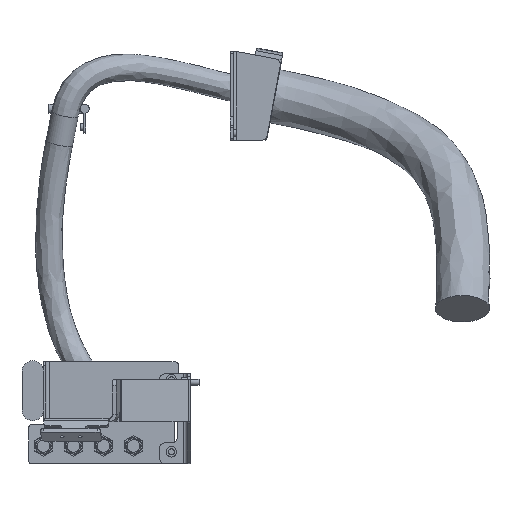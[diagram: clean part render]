
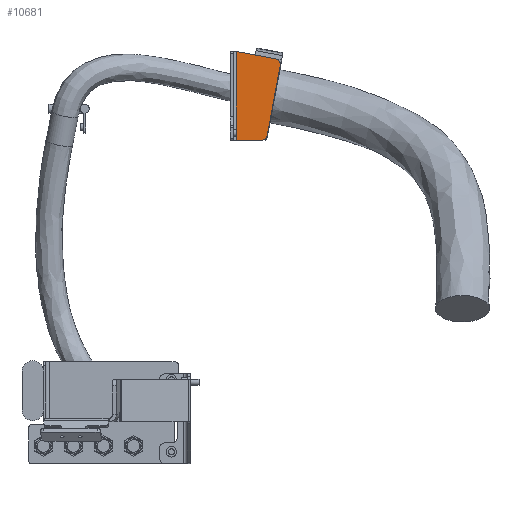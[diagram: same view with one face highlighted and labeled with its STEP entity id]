
A CAD part, left-side view. The second image highlights one B-rep face of the part: STEP entity #10681.
In plain terms, the highlighted planar face has unit normal (-1, 0, 0).
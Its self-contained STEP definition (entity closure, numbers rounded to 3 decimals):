
#34 = EDGE_CURVE ( 'NONE', #9895, #4397, #2104, .T. ) ;
#1404 = DIRECTION ( 'NONE',  ( 0., 1., 0. ) ) ;
#1415 = CIRCLE ( 'NONE', #10564, 10. ) ;
#1929 = CARTESIAN_POINT ( 'NONE',  ( 949., -140., 2206. ) ) ;
#2104 = LINE ( 'NONE', #8624, #19910 ) ;
#2502 = ORIENTED_EDGE ( 'NONE', *, *, #17808, .T. ) ;
#3466 = EDGE_CURVE ( 'NONE', #10762, #18003, #18106, .T. ) ;
#4397 = VERTEX_POINT ( 'NONE', #21269 ) ;
#4862 = DIRECTION ( 'NONE',  ( -1., 0., 0. ) ) ;
#6401 = CARTESIAN_POINT ( 'NONE',  ( 949., -203.54, 2183.978 ) ) ;
#6878 = VERTEX_POINT ( 'NONE', #11277 ) ;
#6968 = ORIENTED_EDGE ( 'NONE', *, *, #34, .F. ) ;
#7931 = VECTOR ( 'NONE', #19863, 1000. ) ;
#8090 = VECTOR ( 'NONE', #19677, 1000. ) ;
#8272 = DIRECTION ( 'NONE',  ( -1., 0., 0. ) ) ;
#8476 = CIRCLE ( 'NONE', #13069, 10. ) ;
#8624 = CARTESIAN_POINT ( 'NONE',  ( 949., -215.035, 2191.074 ) ) ;
#8863 = ORIENTED_EDGE ( 'NONE', *, *, #15093, .T. ) ;
#9895 = VERTEX_POINT ( 'NONE', #20028 ) ;
#10168 = PLANE ( 'NONE',  #16539 ) ;
#10524 = ORIENTED_EDGE ( 'NONE', *, *, #23453, .T. ) ;
#10564 = AXIS2_PLACEMENT_3D ( 'NONE', #6401, #4862, #15567 ) ;
#10673 = CARTESIAN_POINT ( 'NONE',  ( 949., -135.168, 2206.901 ) ) ;
#10681 = ADVANCED_FACE ( 'NONE', ( #19472 ), #10168, .F. ) ;
#10762 = VERTEX_POINT ( 'NONE', #1929 ) ;
#11277 = CARTESIAN_POINT ( 'NONE',  ( 949., -140., 2058. ) ) ;
#11958 = CARTESIAN_POINT ( 'NONE',  ( 949., -135., 2206. ) ) ;
#11988 = ORIENTED_EDGE ( 'NONE', *, *, #3466, .F. ) ;
#12746 = CARTESIAN_POINT ( 'NONE',  ( 949., -181.91, 2058. ) ) ;
#13069 = AXIS2_PLACEMENT_3D ( 'NONE', #20919, #8272, #1404 ) ;
#15093 = EDGE_CURVE ( 'NONE', #6878, #22898, #22515, .T. ) ;
#15131 = CARTESIAN_POINT ( 'NONE',  ( 949., -135., 2058. ) ) ;
#15322 = VECTOR ( 'NONE', #16818, 1000. ) ;
#15365 = EDGE_LOOP ( 'NONE', ( #8863, #2502, #6968, #10524, #11988, #15381 ) ) ;
#15381 = ORIENTED_EDGE ( 'NONE', *, *, #20080, .F. ) ;
#15567 = DIRECTION ( 'NONE',  ( 0., 1., 0. ) ) ;
#15632 = DIRECTION ( 'NONE',  ( 0., 1., 0. ) ) ;
#16539 = AXIS2_PLACEMENT_3D ( 'NONE', #11958, #22682, #15632 ) ;
#16818 = DIRECTION ( 'NONE',  ( 0., -1., 0. ) ) ;
#17416 = LINE ( 'NONE', #21223, #8090 ) ;
#17808 = EDGE_CURVE ( 'NONE', #22898, #4397, #8476, .T. ) ;
#18003 = VERTEX_POINT ( 'NONE', #20269 ) ;
#18106 = LINE ( 'NONE', #10673, #7931 ) ;
#19380 = DIRECTION ( 'NONE',  ( 0., 0.183, -0.983 ) ) ;
#19472 = FACE_OUTER_BOUND ( 'NONE', #15365, .T. ) ;
#19677 = DIRECTION ( 'NONE',  ( 0., 0., 1. ) ) ;
#19863 = DIRECTION ( 'NONE',  ( 0., -0.983, -0.183 ) ) ;
#19910 = VECTOR ( 'NONE', #19380, 1000. ) ;
#20028 = CARTESIAN_POINT ( 'NONE',  ( 949., -213.37, 2182.144 ) ) ;
#20080 = EDGE_CURVE ( 'NONE', #6878, #10762, #17416, .T. ) ;
#20269 = CARTESIAN_POINT ( 'NONE',  ( 949., -205.373, 2193.808 ) ) ;
#20919 = CARTESIAN_POINT ( 'NONE',  ( 949., -181.91, 2068. ) ) ;
#21223 = CARTESIAN_POINT ( 'NONE',  ( 949., -140., 2058. ) ) ;
#21269 = CARTESIAN_POINT ( 'NONE',  ( 949., -191.741, 2066.167 ) ) ;
#22515 = LINE ( 'NONE', #15131, #15322 ) ;
#22682 = DIRECTION ( 'NONE',  ( 1., 0., 0. ) ) ;
#22898 = VERTEX_POINT ( 'NONE', #12746 ) ;
#23453 = EDGE_CURVE ( 'NONE', #9895, #18003, #1415, .T. ) ;
